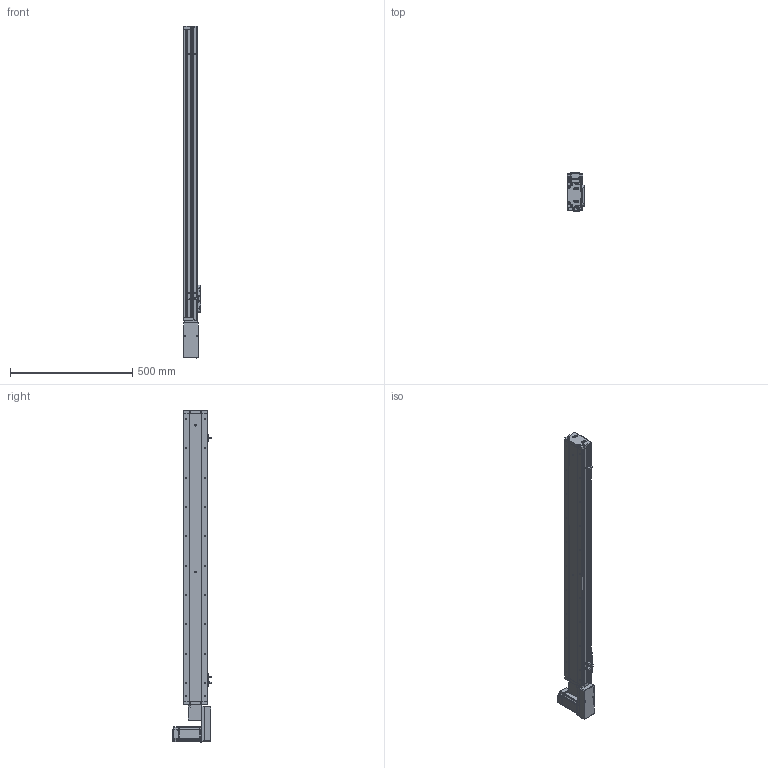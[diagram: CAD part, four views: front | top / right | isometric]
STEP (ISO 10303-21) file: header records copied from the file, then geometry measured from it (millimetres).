
FILE_DESCRIPTION (( 'STEP AP214' ), '1' );
FILE_NAME ('KSD100B-S1000-MRB-CR.STEP', '2019-09-07T09:11:09', ( '微软用户' ), ( '微软中国' ), 'SwSTEP 2.0', 'SolidWorks 2014', '' );
FILE_SCHEMA (( 'AUTOMOTIVE_DESIGN' ));
Length unit declared in the file: millimetre
Products named in the file (15): 100宽滚珠螺姆安装板1防护罩; 悵誘欶奻狟殏; 100宽滚珠螺姆安装板1; MHMD042G1CA_2_03; 100遵裔啣揤啣; 100遵裔啣1000俴最; 100宽侧板1000行程同步带; 100宽底板全封闭1000行程同步带; KSD100B-S1000-MRB-CR; 100宽马达安装板连板上下折丝杆同步带; U倰嫖萇EEㄜSX672; 感应片100宽全封闭; 100宽马达安装板同步带右; 100遵鎮湛假蚾啣蜊; 100宽端板同步带全封闭
Assembly tree (18 placements, depth 2):
  KSD100B-S1000-MRB-CR
    100宽底板全封闭1000行程同步带
    100宽侧板1000行程同步带  x2
    100遵裔啣1000俴最
    100遵裔啣揤啣  x2
    100宽滚珠螺姆安装板1
    100宽滚珠螺姆安装板1防护罩
    100宽端板同步带全封闭
    100遵鎮湛假蚾啣蜊
    100宽马达安装板同步带右
    感应片100宽全封闭
    U倰嫖萇EEㄜSX672  x3
    100宽马达安装板连板上下折丝杆同步带
    悵誘欶奻狟殏
    MHMD042G1CA_2_03
Bounding box: 70.42 x 156.2 x 1358.42 mm (x, y, z)
Volume: 2503243.6 mm3; surface area: 1110047.3 mm2
Topology: 17 solids, 18 shells, 1837 faces, 5134 edges, 3275 vertices
Faces by surface type: cylinder 829, plane 737, cone 251, bspline 20
Entity records: 65214 total; most frequent: CARTESIAN_POINT 10030, DIRECTION 8918, ORIENTED_EDGE 8220, EDGE_CURVE 4182, AXIS2_PLACEMENT_3D 3237, VERTEX_POINT 2773, VECTOR 2444, LINE 2444
